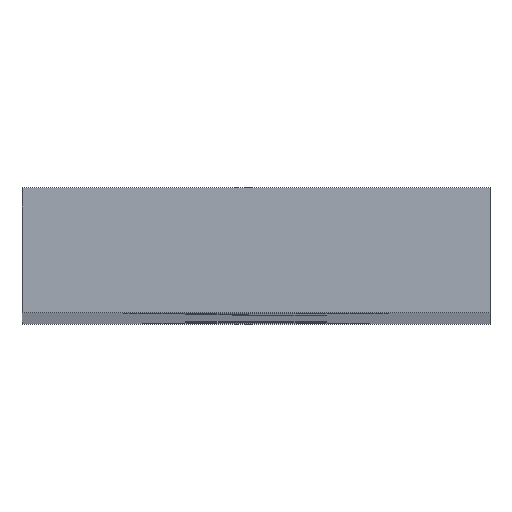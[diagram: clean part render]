
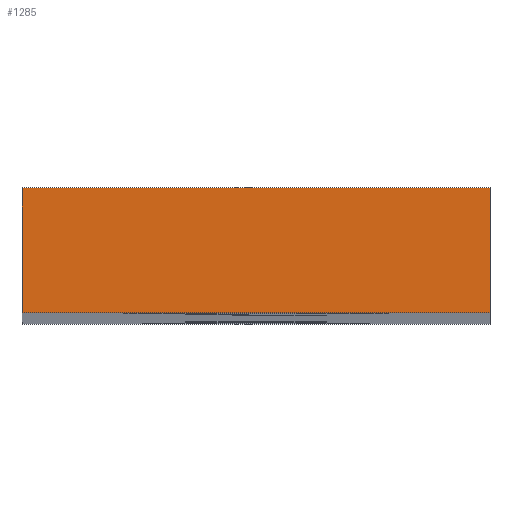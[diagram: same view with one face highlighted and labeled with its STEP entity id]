
A CAD part, top view. The second image highlights one B-rep face of the part: STEP entity #1285.
In plain terms, the highlighted planar face has unit normal (0, 0, 1).
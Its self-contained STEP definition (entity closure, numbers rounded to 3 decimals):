
#24 = VERTEX_POINT('',#25);
#25 = CARTESIAN_POINT('',(-36.85,-7.2,44.));
#32 = PLANE('',#33);
#33 = AXIS2_PLACEMENT_3D('',#34,#35,#36);
#34 = CARTESIAN_POINT('',(-36.85,-7.2,-40.));
#35 = DIRECTION('',(1.,0.,0.));
#36 = DIRECTION('',(0.,0.,1.));
#44 = PLANE('',#45);
#45 = AXIS2_PLACEMENT_3D('',#46,#47,#48);
#46 = CARTESIAN_POINT('',(-36.85,-7.2,-40.));
#47 = DIRECTION('',(0.,1.,0.));
#48 = DIRECTION('',(0.,0.,1.));
#85 = VERTEX_POINT('',#86);
#86 = CARTESIAN_POINT('',(-36.85,-5.6,44.));
#100 = PLANE('',#101);
#101 = AXIS2_PLACEMENT_3D('',#102,#103,#104);
#102 = CARTESIAN_POINT('',(-36.85,-5.6,-40.));
#103 = DIRECTION('',(0.,1.,0.));
#104 = DIRECTION('',(0.,0.,1.));
#112 = EDGE_CURVE('',#24,#85,#113,.T.);
#113 = SURFACE_CURVE('',#114,(#118,#125),.PCURVE_S1.);
#114 = LINE('',#115,#116);
#115 = CARTESIAN_POINT('',(-36.85,-7.2,44.));
#116 = VECTOR('',#117,1.);
#117 = DIRECTION('',(0.,1.,0.));
#118 = PCURVE('',#32,#119);
#119 = DEFINITIONAL_REPRESENTATION('',(#120),#124);
#120 = LINE('',#121,#122);
#121 = CARTESIAN_POINT('',(84.,0.));
#122 = VECTOR('',#123,1.);
#123 = DIRECTION('',(0.,-1.));
#124 = ( GEOMETRIC_REPRESENTATION_CONTEXT(2) 
PARAMETRIC_REPRESENTATION_CONTEXT() REPRESENTATION_CONTEXT('2D SPACE',''
  ) );
#125 = PCURVE('',#126,#131);
#126 = PLANE('',#127);
#127 = AXIS2_PLACEMENT_3D('',#128,#129,#130);
#128 = CARTESIAN_POINT('',(-36.85,-7.2,44.));
#129 = DIRECTION('',(0.,0.,1.));
#130 = DIRECTION('',(1.,0.,0.));
#131 = DEFINITIONAL_REPRESENTATION('',(#132),#136);
#132 = LINE('',#133,#134);
#133 = CARTESIAN_POINT('',(0.,0.));
#134 = VECTOR('',#135,1.);
#135 = DIRECTION('',(0.,1.));
#136 = ( GEOMETRIC_REPRESENTATION_CONTEXT(2) 
PARAMETRIC_REPRESENTATION_CONTEXT() REPRESENTATION_CONTEXT('2D SPACE',''
  ) );
#165 = EDGE_CURVE('',#24,#166,#168,.T.);
#166 = VERTEX_POINT('',#167);
#167 = CARTESIAN_POINT('',(-30.85,-7.2,44.));
#168 = SURFACE_CURVE('',#169,(#173,#180),.PCURVE_S1.);
#169 = LINE('',#170,#171);
#170 = CARTESIAN_POINT('',(-36.85,-7.2,44.));
#171 = VECTOR('',#172,1.);
#172 = DIRECTION('',(1.,0.,0.));
#173 = PCURVE('',#44,#174);
#174 = DEFINITIONAL_REPRESENTATION('',(#175),#179);
#175 = LINE('',#176,#177);
#176 = CARTESIAN_POINT('',(84.,0.));
#177 = VECTOR('',#178,1.);
#178 = DIRECTION('',(0.,1.));
#179 = ( GEOMETRIC_REPRESENTATION_CONTEXT(2) 
PARAMETRIC_REPRESENTATION_CONTEXT() REPRESENTATION_CONTEXT('2D SPACE',''
  ) );
#180 = PCURVE('',#126,#181);
#181 = DEFINITIONAL_REPRESENTATION('',(#182),#186);
#182 = LINE('',#183,#184);
#183 = CARTESIAN_POINT('',(0.,0.));
#184 = VECTOR('',#185,1.);
#185 = DIRECTION('',(1.,0.));
#186 = ( GEOMETRIC_REPRESENTATION_CONTEXT(2) 
PARAMETRIC_REPRESENTATION_CONTEXT() REPRESENTATION_CONTEXT('2D SPACE',''
  ) );
#202 = PLANE('',#203);
#203 = AXIS2_PLACEMENT_3D('',#204,#205,#206);
#204 = CARTESIAN_POINT('',(-30.85,-7.2,-40.));
#205 = DIRECTION('',(1.,0.,0.));
#206 = DIRECTION('',(0.,0.,1.));
#1285 = ADVANCED_FACE('',(#1286),#126,.T.);
#1286 = FACE_BOUND('',#1287,.T.);
#1287 = EDGE_LOOP('',(#1288,#1289,#1290,#1313));
#1288 = ORIENTED_EDGE('',*,*,#112,.F.);
#1289 = ORIENTED_EDGE('',*,*,#165,.T.);
#1290 = ORIENTED_EDGE('',*,*,#1291,.T.);
#1291 = EDGE_CURVE('',#166,#1292,#1294,.T.);
#1292 = VERTEX_POINT('',#1293);
#1293 = CARTESIAN_POINT('',(-30.85,-5.6,44.));
#1294 = SURFACE_CURVE('',#1295,(#1299,#1306),.PCURVE_S1.);
#1295 = LINE('',#1296,#1297);
#1296 = CARTESIAN_POINT('',(-30.85,-7.2,44.));
#1297 = VECTOR('',#1298,1.);
#1298 = DIRECTION('',(0.,1.,0.));
#1299 = PCURVE('',#126,#1300);
#1300 = DEFINITIONAL_REPRESENTATION('',(#1301),#1305);
#1301 = LINE('',#1302,#1303);
#1302 = CARTESIAN_POINT('',(6.,0.));
#1303 = VECTOR('',#1304,1.);
#1304 = DIRECTION('',(0.,1.));
#1305 = ( GEOMETRIC_REPRESENTATION_CONTEXT(2) 
PARAMETRIC_REPRESENTATION_CONTEXT() REPRESENTATION_CONTEXT('2D SPACE',''
  ) );
#1306 = PCURVE('',#202,#1307);
#1307 = DEFINITIONAL_REPRESENTATION('',(#1308),#1312);
#1308 = LINE('',#1309,#1310);
#1309 = CARTESIAN_POINT('',(84.,0.));
#1310 = VECTOR('',#1311,1.);
#1311 = DIRECTION('',(0.,-1.));
#1312 = ( GEOMETRIC_REPRESENTATION_CONTEXT(2) 
PARAMETRIC_REPRESENTATION_CONTEXT() REPRESENTATION_CONTEXT('2D SPACE',''
  ) );
#1313 = ORIENTED_EDGE('',*,*,#1314,.F.);
#1314 = EDGE_CURVE('',#85,#1292,#1315,.T.);
#1315 = SURFACE_CURVE('',#1316,(#1320,#1327),.PCURVE_S1.);
#1316 = LINE('',#1317,#1318);
#1317 = CARTESIAN_POINT('',(-36.85,-5.6,44.));
#1318 = VECTOR('',#1319,1.);
#1319 = DIRECTION('',(1.,0.,0.));
#1320 = PCURVE('',#126,#1321);
#1321 = DEFINITIONAL_REPRESENTATION('',(#1322),#1326);
#1322 = LINE('',#1323,#1324);
#1323 = CARTESIAN_POINT('',(0.,1.6));
#1324 = VECTOR('',#1325,1.);
#1325 = DIRECTION('',(1.,0.));
#1326 = ( GEOMETRIC_REPRESENTATION_CONTEXT(2) 
PARAMETRIC_REPRESENTATION_CONTEXT() REPRESENTATION_CONTEXT('2D SPACE',''
  ) );
#1327 = PCURVE('',#100,#1328);
#1328 = DEFINITIONAL_REPRESENTATION('',(#1329),#1333);
#1329 = LINE('',#1330,#1331);
#1330 = CARTESIAN_POINT('',(84.,0.));
#1331 = VECTOR('',#1332,1.);
#1332 = DIRECTION('',(0.,1.));
#1333 = ( GEOMETRIC_REPRESENTATION_CONTEXT(2) 
PARAMETRIC_REPRESENTATION_CONTEXT() REPRESENTATION_CONTEXT('2D SPACE',''
  ) );
